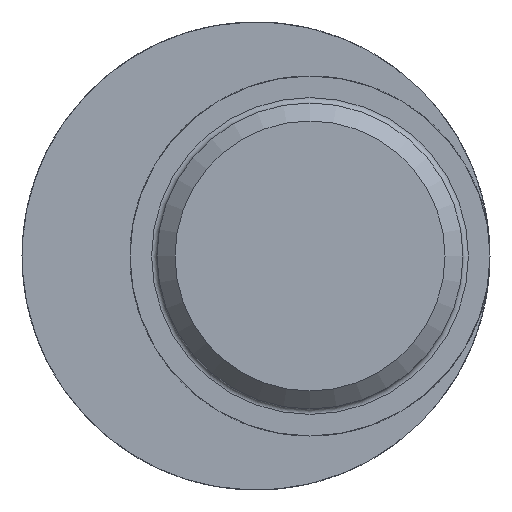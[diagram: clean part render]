
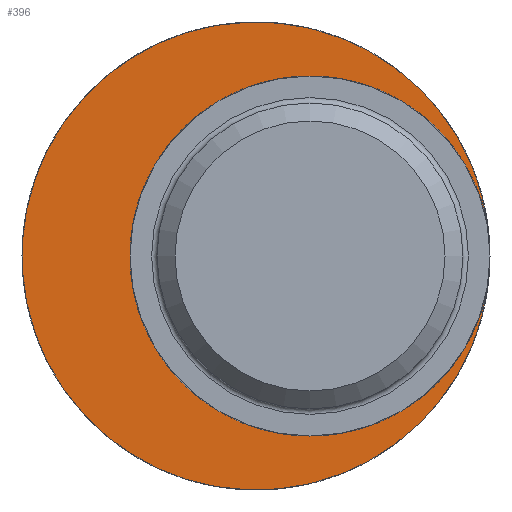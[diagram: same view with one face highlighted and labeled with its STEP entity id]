
A CAD part, left-side view. The second image highlights one B-rep face of the part: STEP entity #396.
In plain terms, the highlighted planar face has unit normal (1, 0, 0).
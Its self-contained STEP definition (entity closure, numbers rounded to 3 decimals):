
#34=PLANE('',#476);
#66=FACE_OUTER_BOUND('',#94,.T.);
#94=EDGE_LOOP('',(#361,#362,#363));
#158=CIRCLE('',#466,10.);
#159=CIRCLE('',#467,10.);
#165=CIRCLE('',#477,13.);
#197=VERTEX_POINT('',#749);
#198=VERTEX_POINT('',#750);
#247=EDGE_CURVE('',#197,#198,#158,.T.);
#248=EDGE_CURVE('',#198,#197,#159,.T.);
#256=EDGE_CURVE('',#197,#197,#165,.T.);
#361=ORIENTED_EDGE('',*,*,#256,.T.);
#362=ORIENTED_EDGE('',*,*,#247,.T.);
#363=ORIENTED_EDGE('',*,*,#248,.T.);
#396=ADVANCED_FACE('',(#66),#34,.T.);
#466=AXIS2_PLACEMENT_3D('',#751,#586,#587);
#467=AXIS2_PLACEMENT_3D('',#752,#588,#589);
#476=AXIS2_PLACEMENT_3D('',#767,#608,#609);
#477=AXIS2_PLACEMENT_3D('',#768,#610,#611);
#586=DIRECTION('center_axis',(-1.,0.,0.));
#587=DIRECTION('ref_axis',(0.,-1.,0.));
#588=DIRECTION('center_axis',(-1.,0.,0.));
#589=DIRECTION('ref_axis',(0.,-1.,0.));
#608=DIRECTION('center_axis',(1.,0.,0.));
#609=DIRECTION('ref_axis',(0.,0.,-1.));
#610=DIRECTION('center_axis',(1.,0.,0.));
#611=DIRECTION('ref_axis',(0.,1.,0.));
#749=CARTESIAN_POINT('',(12.,-10.,0.));
#750=CARTESIAN_POINT('',(12.,10.,0.));
#751=CARTESIAN_POINT('Origin',(12.,0.,0.));
#752=CARTESIAN_POINT('Origin',(12.,0.,0.));
#767=CARTESIAN_POINT('Origin',(12.,3.,0.));
#768=CARTESIAN_POINT('Origin',(12.,3.,0.));
